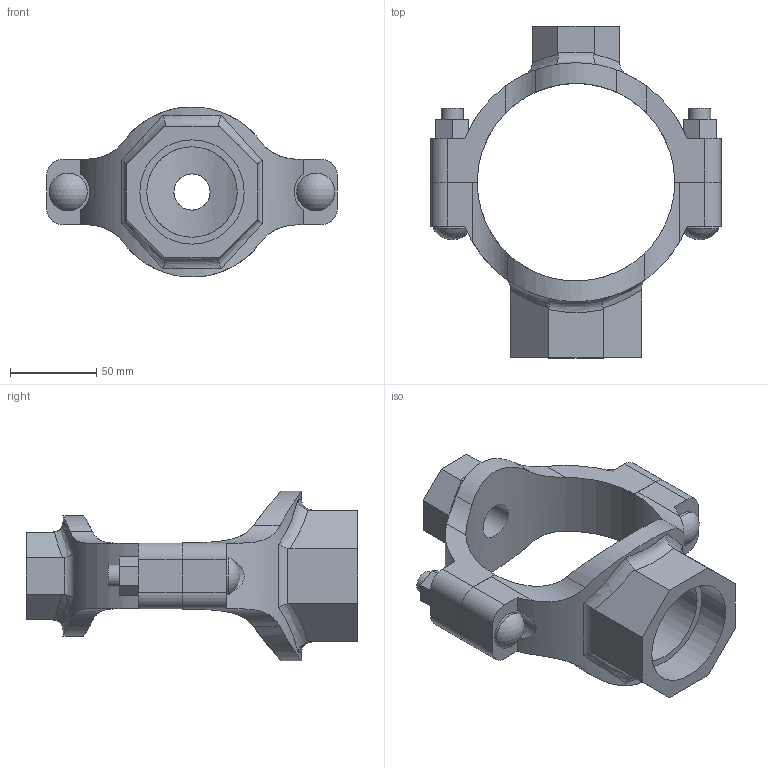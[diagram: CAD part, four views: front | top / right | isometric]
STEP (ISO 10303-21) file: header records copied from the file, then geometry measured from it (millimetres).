
FILE_DESCRIPTION(/* description */ ('VIC MECH-T BRANCH OUTLET CROSS STYLE 920N (THD)','CAx-IF Rec.Pracs.---Representation and Presentation of Product Manufacturing Information (PMI)---4.0---2014-10-13'),/* implementation_level */ '2;1');
FILE_NAME(/* name */ 'C:\Users\Vjadhav\AppData\Roaming\Autodesk\ApplicationPlugins\Back Up\Victaulic_IPS_Mechanical-Cross Outlet_Style 920N (FPT)\Victaulic_IPS_Mechanical-Cross Outlet_04.0x0.75x02.0 (100x20x50).stp',/* time_stamp */ '2020-08-06T18:58:15+05:00',/* author */ ('Vjadhav'),/* organization */ ('Victaulic'),/* preprocessor_version */ 'ST-DEVELOPER v17.2',/* originating_system */ 'Autodesk Inventor 2019',/* authorisation */ '');
FILE_SCHEMA (('AP242_MANAGED_MODEL_BASED_3D_ENGINEERING_MIM_LF { 1 0 10303 442 1 1 4 }'));
Length unit declared in the file: inch
Products named in the file (3): 920NT-04.0x0.75x02.0; 920NT-04.0x0.75; 920NT-04.0x02.0
Assembly tree (2 placements, depth 2):
  920NT-04.0x0.75x02.0
    920NT-04.0x0.75
    920NT-04.0x02.0
Bounding box: 168.4 x 192.02 x 98.37 mm (x, y, z)
Volume: 404474.4 mm3; surface area: 92581.7 mm2
Topology: 2 solids, 2 shells, 132 faces, 350 edges, 236 vertices
Faces by surface type: plane 68, cylinder 50, bspline 8, torus 4, sphere 2
Full cylindrical faces by diameter (mm): 12.7 x4, 20.93 x1, 21.982 x2, 26.67 x1, 52.387 x1, 60.325 x1
Entity records: 5300 total; most frequent: CARTESIAN_POINT 1787, ORIENTED_EDGE 700, DIRECTION 648, EDGE_CURVE 350, VERTEX_POINT 236, AXIS2_PLACEMENT_3D 231, LINE 186, VECTOR 186
